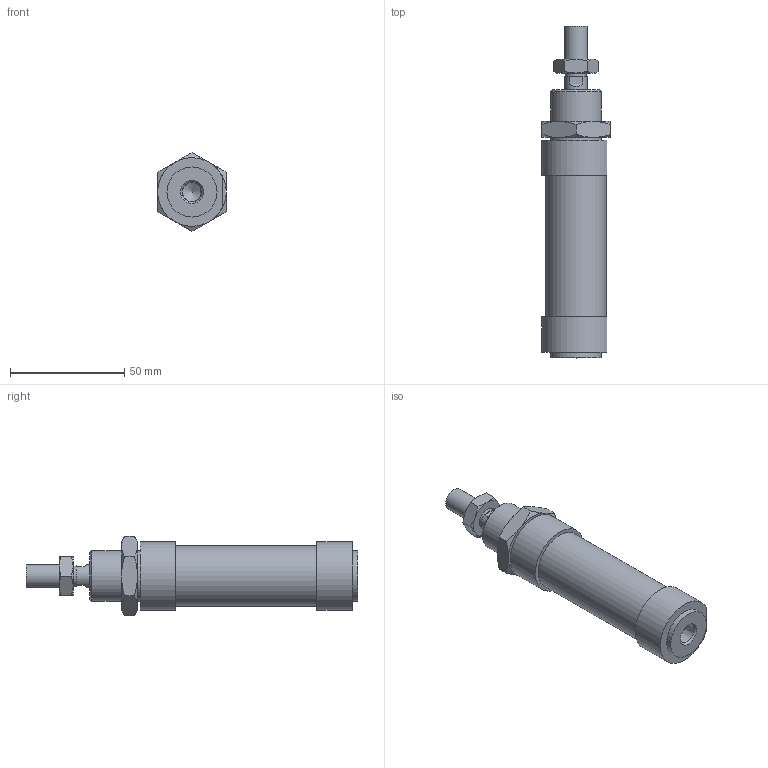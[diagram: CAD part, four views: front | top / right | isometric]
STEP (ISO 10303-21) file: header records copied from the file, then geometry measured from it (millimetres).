
FILE_DESCRIPTION((''),'2;1');
FILE_NAME('I:\Area Tecnica\Disegni\VARIE-3D\Componenti\1280\1281_##_####_#\1281_25_0025.iam.stp','2009-06-04T09:40:09',(''),(''),'Autodesk Inventor 2010','Autodesk Inventor 2010','');
FILE_SCHEMA(('AUTOMOTIVE_DESIGN { 1 0 10303 214 1 1 1 1 }'));
Length unit declared in the file: millimetre
Products named in the file (5): 1281_25_0025; C1281_25_25; S1280_25_25; 1200_25_05; 1200_25_06
Assembly tree (4 placements, depth 2):
  1281_25_0025
    C1281_25_25
    S1280_25_25
    1200_25_05
    1200_25_06
Bounding box: 30 x 145.5 x 34.64 mm (x, y, z)
Volume: 69525.5 mm3; surface area: 19801.5 mm2
Topology: 4 solids, 4 shells, 86 faces, 185 edges, 112 vertices
Faces by surface type: plane 36, cone 26, bspline 15, cylinder 9
Full cylindrical faces by diameter (mm): 8.8 x1, 10 x3, 22 x2, 26.5 x1
Entity records: 2529 total; most frequent: CARTESIAN_POINT 690, DIRECTION 332, ORIENTED_EDGE 310, EDGE_CURVE 155, AXIS2_PLACEMENT_3D 148, EDGE_LOOP 120, VERTEX_POINT 103, STYLED_ITEM 90
